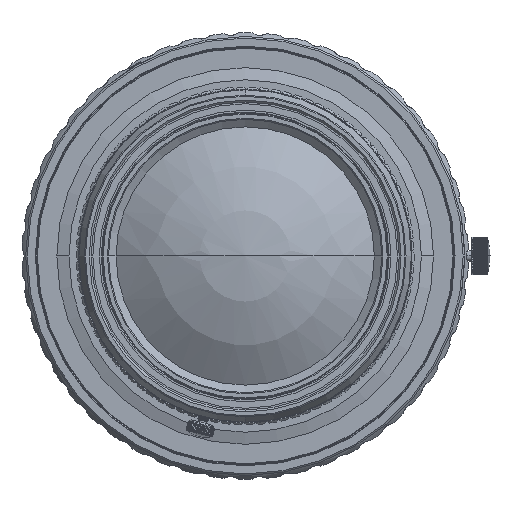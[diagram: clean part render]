
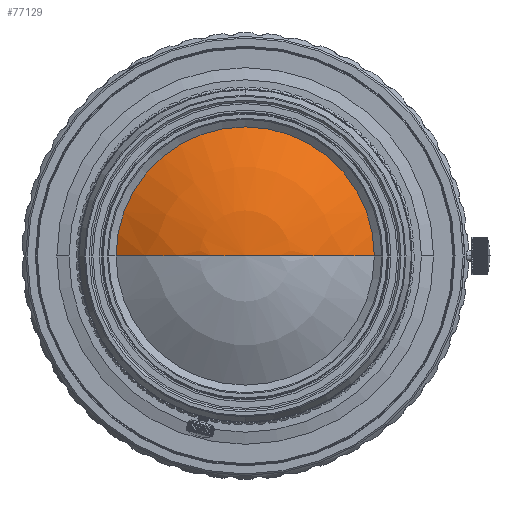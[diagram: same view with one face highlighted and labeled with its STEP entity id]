
A CAD part, left-side view. The second image highlights one B-rep face of the part: STEP entity #77129.
In plain terms, the highlighted spherical face has radius 41.332 mm.
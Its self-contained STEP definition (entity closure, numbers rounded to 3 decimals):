
#1956=CARTESIAN_POINT('',(-41.684,0.,0.));
#1957=DIRECTION('',(1.,0.,0.));
#1958=DIRECTION('',(0.,1.,0.));
#1959=AXIS2_PLACEMENT_3D('',#1956,#1957,#1958);
#1961=CARTESIAN_POINT('',(-8.034,0.,0.));
#1962=DIRECTION('',(0.,0.,1.));
#1963=DIRECTION('',(-0.814,0.581,0.));
#1964=AXIS2_PLACEMENT_3D('',#1961,#1962,#1963);
#1966=CARTESIAN_POINT('',(-8.034,0.,0.));
#1967=DIRECTION('',(0.,0.,1.));
#1968=DIRECTION('',(-1.,0.,0.));
#1969=AXIS2_PLACEMENT_3D('',#1966,#1967,#1968);
#64117=CARTESIAN_POINT('',(-41.684,24.,0.));
#64118=VERTEX_POINT('',#64117);
#64119=CARTESIAN_POINT('',(-41.684,-24.,0.));
#64120=VERTEX_POINT('',#64119);
#64121=CARTESIAN_POINT('',(-49.366,0.,0.));
#64122=VERTEX_POINT('',#64121);
#77117=CARTESIAN_POINT('',(-8.034,0.,0.));
#77118=DIRECTION('',(1.,0.,0.));
#77119=DIRECTION('',(0.,-1.,0.));
#77120=AXIS2_PLACEMENT_3D('',#77117,#77118,#77119);
#77121=SPHERICAL_SURFACE('',#77120,41.332);
#77123=ORIENTED_EDGE('',*,*,#77122,.F.);
#77124=ORIENTED_EDGE('',*,*,#77112,.T.);
#77126=ORIENTED_EDGE('',*,*,#77125,.F.);
#77127=EDGE_LOOP('',(#77123,#77124,#77126));
#77128=FACE_OUTER_BOUND('',#77127,.F.);
#1960=CIRCLE('',#1959,24.);
#1965=CIRCLE('',#1964,41.332);
#1970=CIRCLE('',#1969,41.332);
#77112=EDGE_CURVE('',#64118,#64120,#1960,.T.);
#77122=EDGE_CURVE('',#64118,#64122,#1965,.T.);
#77125=EDGE_CURVE('',#64122,#64120,#1970,.T.);
#77129=ADVANCED_FACE('',(#77128),#77121,.T.);
